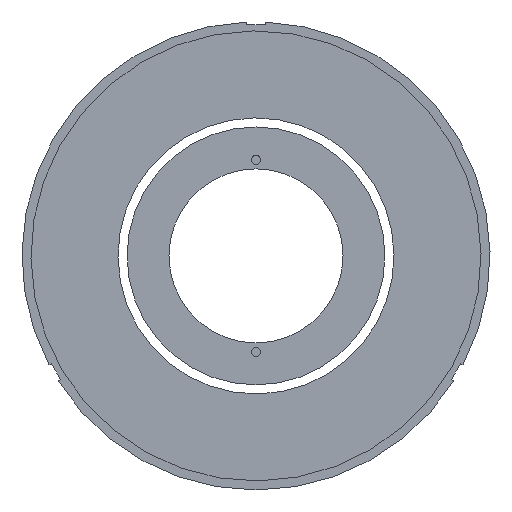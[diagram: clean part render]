
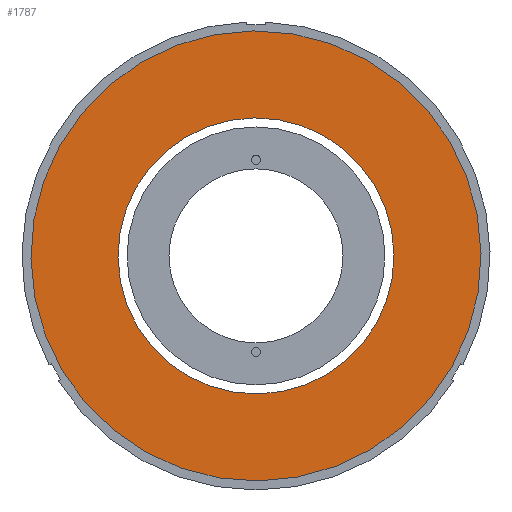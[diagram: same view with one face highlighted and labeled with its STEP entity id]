
A CAD part, front view. The second image highlights one B-rep face of the part: STEP entity #1787.
In plain terms, the highlighted planar face has unit normal (0, -1, 0).
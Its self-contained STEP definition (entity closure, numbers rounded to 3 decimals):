
#4 = PLANE ( 'NONE',  #3164 ) ;
#59 = DIRECTION ( 'NONE',  ( 0., 1., 0. ) ) ;
#96 = EDGE_LOOP ( 'NONE', ( #1357, #2288 ) ) ;
#193 = DIRECTION ( 'NONE',  ( -0.163, 0., -0.987 ) ) ;
#243 = CIRCLE ( 'NONE', #1296, 23. ) ;
#485 = DIRECTION ( 'NONE',  ( -0.163, 0., -0.987 ) ) ;
#517 = AXIS2_PLACEMENT_3D ( 'NONE', #2669, #59, #1044 ) ;
#1004 = ORIENTED_EDGE ( 'NONE', *, *, #3631, .T. ) ;
#1044 = DIRECTION ( 'NONE',  ( -0.163, 0., -0.987 ) ) ;
#1237 = CIRCLE ( 'NONE', #517, 37.5 ) ;
#1262 = DIRECTION ( 'NONE',  ( -0.163, 0., -0.987 ) ) ;
#1296 = AXIS2_PLACEMENT_3D ( 'NONE', #1417, #3998, #193 ) ;
#1350 = DIRECTION ( 'NONE',  ( 0., 1., 0. ) ) ;
#1357 = ORIENTED_EDGE ( 'NONE', *, *, #2764, .F. ) ;
#1417 = CARTESIAN_POINT ( 'NONE',  ( -2.996, 3.471, 42.978 ) ) ;
#1685 = CARTESIAN_POINT ( 'NONE',  ( -2.996, 3.471, 42.978 ) ) ;
#1712 = EDGE_CURVE ( 'NONE', #3981, #3985, #1754, .T. ) ;
#1754 = CIRCLE ( 'NONE', #1947, 37.5 ) ;
#1787 = ADVANCED_FACE ( 'NONE', ( #2875, #3084 ), #4, .F. ) ;
#1857 = AXIS2_PLACEMENT_3D ( 'NONE', #1685, #1350, #3243 ) ;
#1883 = CARTESIAN_POINT ( 'NONE',  ( -2.996, 3.471, 42.978 ) ) ;
#1947 = AXIS2_PLACEMENT_3D ( 'NONE', #2383, #3676, #485 ) ;
#2078 = CARTESIAN_POINT ( 'NONE',  ( -6.749, 3.471, 20.286 ) ) ;
#2124 = DIRECTION ( 'NONE',  ( 0., 1., 0. ) ) ;
#2210 = EDGE_LOOP ( 'NONE', ( #4107, #1004 ) ) ;
#2288 = ORIENTED_EDGE ( 'NONE', *, *, #1712, .F. ) ;
#2383 = CARTESIAN_POINT ( 'NONE',  ( -2.996, 3.471, 42.978 ) ) ;
#2495 = CARTESIAN_POINT ( 'NONE',  ( -9.115, 3.471, 5.98 ) ) ;
#2523 = CIRCLE ( 'NONE', #1857, 23. ) ;
#2669 = CARTESIAN_POINT ( 'NONE',  ( -2.996, 3.471, 42.978 ) ) ;
#2764 = EDGE_CURVE ( 'NONE', #3985, #3981, #1237, .T. ) ;
#2875 = FACE_OUTER_BOUND ( 'NONE', #96, .T. ) ;
#2999 = VERTEX_POINT ( 'NONE', #4019 ) ;
#3084 = FACE_BOUND ( 'NONE', #2210, .T. ) ;
#3096 = VERTEX_POINT ( 'NONE', #2078 ) ;
#3145 = EDGE_CURVE ( 'NONE', #2999, #3096, #243, .T. ) ;
#3164 = AXIS2_PLACEMENT_3D ( 'NONE', #1883, #2124, #1262 ) ;
#3243 = DIRECTION ( 'NONE',  ( -0.163, 0., -0.987 ) ) ;
#3432 = CARTESIAN_POINT ( 'NONE',  ( 3.122, 3.471, 79.975 ) ) ;
#3631 = EDGE_CURVE ( 'NONE', #3096, #2999, #2523, .T. ) ;
#3676 = DIRECTION ( 'NONE',  ( 0., 1., 0. ) ) ;
#3981 = VERTEX_POINT ( 'NONE', #2495 ) ;
#3985 = VERTEX_POINT ( 'NONE', #3432 ) ;
#3998 = DIRECTION ( 'NONE',  ( 0., 1., 0. ) ) ;
#4019 = CARTESIAN_POINT ( 'NONE',  ( 0.756, 3.471, 65.669 ) ) ;
#4107 = ORIENTED_EDGE ( 'NONE', *, *, #3145, .T. ) ;
